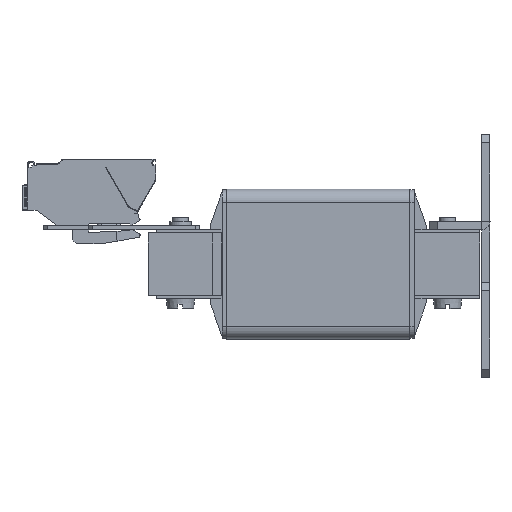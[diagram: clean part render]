
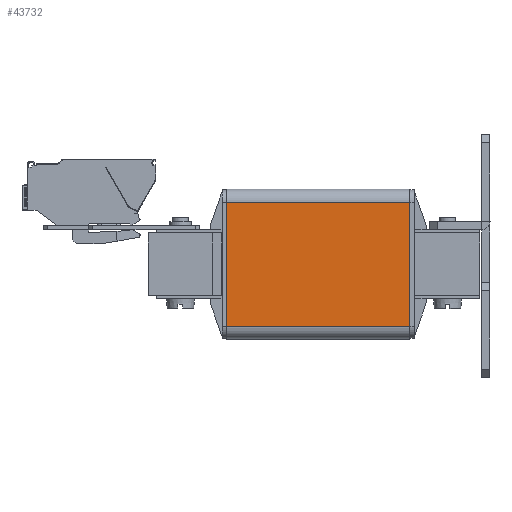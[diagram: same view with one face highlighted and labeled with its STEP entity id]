
A CAD part, left-side view. The second image highlights one B-rep face of the part: STEP entity #43732.
In plain terms, the highlighted planar face has unit normal (-1, 0, 0).
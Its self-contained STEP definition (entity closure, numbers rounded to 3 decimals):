
#2524 = VECTOR ( 'NONE', #35688, 1000. ) ;
#2709 = DIRECTION ( 'NONE',  ( 1., 0., 0. ) ) ;
#10431 = VECTOR ( 'NONE', #21637, 1000. ) ;
#13496 = EDGE_CURVE ( 'NONE', #32056, #58591, #78880, .T. ) ;
#13686 = VECTOR ( 'NONE', #55091, 1000. ) ;
#13762 = ORIENTED_EDGE ( 'NONE', *, *, #42259, .T. ) ;
#15595 = FACE_OUTER_BOUND ( 'NONE', #84045, .T. ) ;
#21637 = DIRECTION ( 'NONE',  ( 0., 0., 1. ) ) ;
#26463 = AXIS2_PLACEMENT_3D ( 'NONE', #55381, #2709, #49008 ) ;
#28968 = CARTESIAN_POINT ( 'NONE',  ( -47.7, 45.3, -15.35 ) ) ;
#29590 = CARTESIAN_POINT ( 'NONE',  ( -47.7, 0., -15.35 ) ) ;
#31583 = EDGE_CURVE ( 'NONE', #65904, #62553, #72976, .T. ) ;
#32056 = VERTEX_POINT ( 'NONE', #28968 ) ;
#35663 = PLANE ( 'NONE',  #26463 ) ;
#35688 = DIRECTION ( 'NONE',  ( 0., 0., 1. ) ) ;
#42259 = EDGE_CURVE ( 'NONE', #32056, #65904, #43693, .T. ) ;
#43693 = LINE ( 'NONE', #68984, #76892 ) ;
#43732 = ADVANCED_FACE ( 'NONE', ( #15595 ), #35663, .F. ) ;
#48443 = CARTESIAN_POINT ( 'NONE',  ( -47.7, 45.3, 15.35 ) ) ;
#49008 = DIRECTION ( 'NONE',  ( 0., 0., -1. ) ) ;
#50995 = LINE ( 'NONE', #48443, #13686 ) ;
#51931 = ORIENTED_EDGE ( 'NONE', *, *, #31583, .T. ) ;
#55091 = DIRECTION ( 'NONE',  ( 0., -1., 0. ) ) ;
#55381 = CARTESIAN_POINT ( 'NONE',  ( -47.7, 45.3, 15.35 ) ) ;
#56420 = ORIENTED_EDGE ( 'NONE', *, *, #65846, .F. ) ;
#58591 = VERTEX_POINT ( 'NONE', #74849 ) ;
#60545 = ORIENTED_EDGE ( 'NONE', *, *, #13496, .F. ) ;
#62553 = VERTEX_POINT ( 'NONE', #82493 ) ;
#65846 = EDGE_CURVE ( 'NONE', #58591, #62553, #50995, .T. ) ;
#65904 = VERTEX_POINT ( 'NONE', #29590 ) ;
#68023 = CARTESIAN_POINT ( 'NONE',  ( -47.7, 45.3, 15.35 ) ) ;
#68984 = CARTESIAN_POINT ( 'NONE',  ( -47.7, 45.3, -15.35 ) ) ;
#72976 = LINE ( 'NONE', #82084, #2524 ) ;
#74849 = CARTESIAN_POINT ( 'NONE',  ( -47.7, 45.3, 15.35 ) ) ;
#76892 = VECTOR ( 'NONE', #82348, 1000. ) ;
#78880 = LINE ( 'NONE', #68023, #10431 ) ;
#82084 = CARTESIAN_POINT ( 'NONE',  ( -47.7, 0., 15.35 ) ) ;
#82348 = DIRECTION ( 'NONE',  ( 0., -1., 0. ) ) ;
#82493 = CARTESIAN_POINT ( 'NONE',  ( -47.7, 0., 15.35 ) ) ;
#84045 = EDGE_LOOP ( 'NONE', ( #51931, #56420, #60545, #13762 ) ) ;
